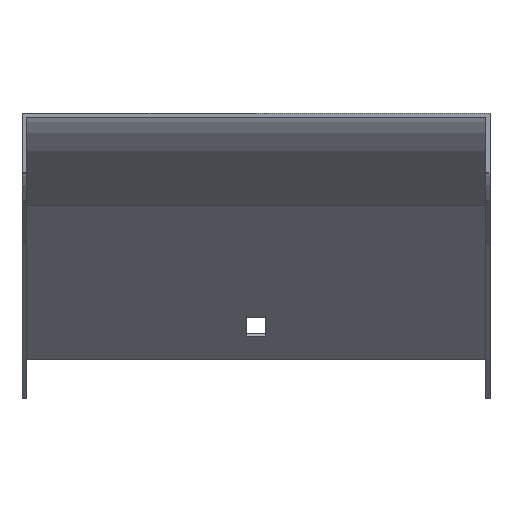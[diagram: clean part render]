
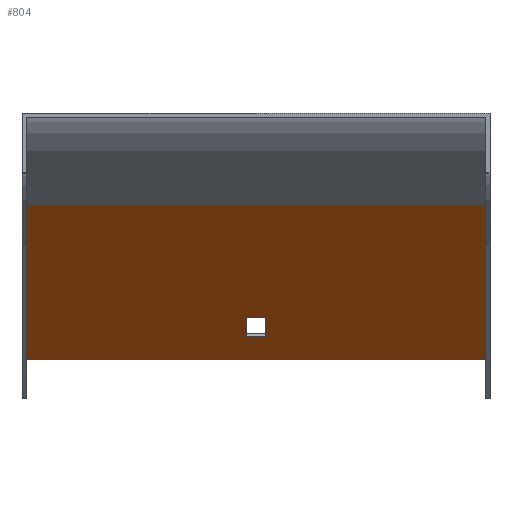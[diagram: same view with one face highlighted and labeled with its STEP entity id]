
A CAD part, top view. The second image highlights one B-rep face of the part: STEP entity #804.
In plain terms, the highlighted planar face has unit normal (0, -0.707, 0.707).
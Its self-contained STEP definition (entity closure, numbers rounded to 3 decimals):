
#23 = DIRECTION ( 'NONE',  ( -1., 0., 0. ) ) ;
#47 = PLANE ( 'NONE',  #125 ) ;
#48 = DIRECTION ( 'NONE',  ( 0., -0.707, -0.707 ) ) ;
#57 = LINE ( 'NONE', #598, #832 ) ;
#91 = ORIENTED_EDGE ( 'NONE', *, *, #310, .T. ) ;
#95 = CARTESIAN_POINT ( 'NONE',  ( 3.25, -30.789, -143.811 ) ) ;
#121 = EDGE_CURVE ( 'NONE', #380, #492, #57, .T. ) ;
#125 = AXIS2_PLACEMENT_3D ( 'NONE', #303, #459, #253 ) ;
#132 = ORIENTED_EDGE ( 'NONE', *, *, #318, .T. ) ;
#150 = VERTEX_POINT ( 'NONE', #489 ) ;
#170 = EDGE_LOOP ( 'NONE', ( #616, #683, #91, #577 ) ) ;
#186 = CARTESIAN_POINT ( 'NONE',  ( -3.25, -74.701, -187.722 ) ) ;
#196 = EDGE_CURVE ( 'NONE', #207, #817, #424, .T. ) ;
#207 = VERTEX_POINT ( 'NONE', #208 ) ;
#208 = CARTESIAN_POINT ( 'NONE',  ( -77., -82.479, -195.5 ) ) ;
#215 = CARTESIAN_POINT ( 'NONE',  ( 77., -82.479, -195.5 ) ) ;
#229 = DIRECTION ( 'NONE',  ( -1., 0., 0. ) ) ;
#233 = CARTESIAN_POINT ( 'NONE',  ( 77., -30.789, -143.811 ) ) ;
#242 = EDGE_CURVE ( 'NONE', #482, #410, #757, .T. ) ;
#249 = FACE_OUTER_BOUND ( 'NONE', #629, .T. ) ;
#252 = CARTESIAN_POINT ( 'NONE',  ( -3.25, -68.337, -181.358 ) ) ;
#253 = DIRECTION ( 'NONE',  ( 0., -0.707, -0.707 ) ) ;
#291 = LINE ( 'NONE', #622, #568 ) ;
#294 = DIRECTION ( 'NONE',  ( 1., 0., 0. ) ) ;
#303 = CARTESIAN_POINT ( 'NONE',  ( 78.5, -30.789, -143.811 ) ) ;
#310 = EDGE_CURVE ( 'NONE', #492, #482, #291, .T. ) ;
#318 = EDGE_CURVE ( 'NONE', #150, #817, #831, .T. ) ;
#343 = EDGE_CURVE ( 'NONE', #502, #150, #834, .T. ) ;
#362 = DIRECTION ( 'NONE',  ( 0., 0.707, 0.707 ) ) ;
#373 = DIRECTION ( 'NONE',  ( 0., 0.707, 0.707 ) ) ;
#378 = VECTOR ( 'NONE', #373, 1000. ) ;
#380 = VERTEX_POINT ( 'NONE', #186 ) ;
#410 = VERTEX_POINT ( 'NONE', #592 ) ;
#423 = ORIENTED_EDGE ( 'NONE', *, *, #343, .T. ) ;
#424 = LINE ( 'NONE', #686, #698 ) ;
#432 = DIRECTION ( 'NONE',  ( -1., 0., 0. ) ) ;
#459 = DIRECTION ( 'NONE',  ( 0., -0.707, 0.707 ) ) ;
#482 = VERTEX_POINT ( 'NONE', #857 ) ;
#489 = CARTESIAN_POINT ( 'NONE',  ( 77., -30.789, -143.811 ) ) ;
#492 = VERTEX_POINT ( 'NONE', #252 ) ;
#502 = VERTEX_POINT ( 'NONE', #215 ) ;
#550 = EDGE_CURVE ( 'NONE', #410, #380, #614, .T. ) ;
#568 = VECTOR ( 'NONE', #294, 1000. ) ;
#573 = CARTESIAN_POINT ( 'NONE',  ( 78.5, -82.479, -195.5 ) ) ;
#577 = ORIENTED_EDGE ( 'NONE', *, *, #242, .T. ) ;
#589 = DIRECTION ( 'NONE',  ( 0., 0.707, 0.707 ) ) ;
#592 = CARTESIAN_POINT ( 'NONE',  ( 3.25, -74.701, -187.722 ) ) ;
#598 = CARTESIAN_POINT ( 'NONE',  ( -3.25, -30.789, -143.811 ) ) ;
#614 = LINE ( 'NONE', #666, #625 ) ;
#616 = ORIENTED_EDGE ( 'NONE', *, *, #550, .T. ) ;
#622 = CARTESIAN_POINT ( 'NONE',  ( 78.5, -68.337, -181.358 ) ) ;
#625 = VECTOR ( 'NONE', #23, 1000. ) ;
#629 = EDGE_LOOP ( 'NONE', ( #830, #708, #423, #132 ) ) ;
#637 = FACE_BOUND ( 'NONE', #170, .T. ) ;
#652 = VECTOR ( 'NONE', #48, 1000. ) ;
#666 = CARTESIAN_POINT ( 'NONE',  ( 78.5, -74.701, -187.722 ) ) ;
#683 = ORIENTED_EDGE ( 'NONE', *, *, #121, .T. ) ;
#686 = CARTESIAN_POINT ( 'NONE',  ( -77., -30.789, -143.811 ) ) ;
#691 = EDGE_CURVE ( 'NONE', #502, #207, #718, .T. ) ;
#696 = CARTESIAN_POINT ( 'NONE',  ( 78.5, -30.789, -143.811 ) ) ;
#698 = VECTOR ( 'NONE', #362, 1000. ) ;
#708 = ORIENTED_EDGE ( 'NONE', *, *, #691, .F. ) ;
#718 = LINE ( 'NONE', #573, #801 ) ;
#757 = LINE ( 'NONE', #95, #652 ) ;
#768 = CARTESIAN_POINT ( 'NONE',  ( -77., -30.789, -143.811 ) ) ;
#794 = VECTOR ( 'NONE', #229, 1000. ) ;
#801 = VECTOR ( 'NONE', #432, 1000. ) ;
#804 = ADVANCED_FACE ( 'NONE', ( #249, #637 ), #47, .T. ) ;
#817 = VERTEX_POINT ( 'NONE', #768 ) ;
#830 = ORIENTED_EDGE ( 'NONE', *, *, #196, .F. ) ;
#831 = LINE ( 'NONE', #696, #794 ) ;
#832 = VECTOR ( 'NONE', #589, 1000. ) ;
#834 = LINE ( 'NONE', #233, #378 ) ;
#857 = CARTESIAN_POINT ( 'NONE',  ( 3.25, -68.337, -181.358 ) ) ;
